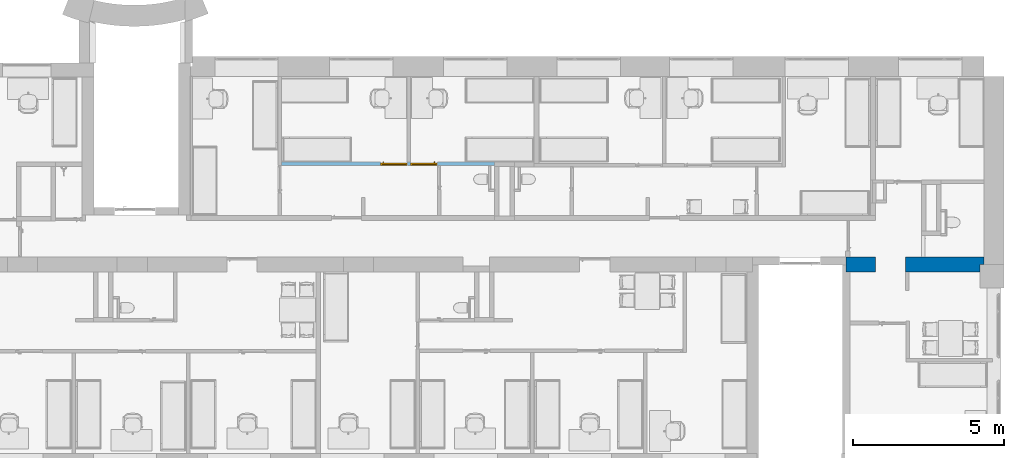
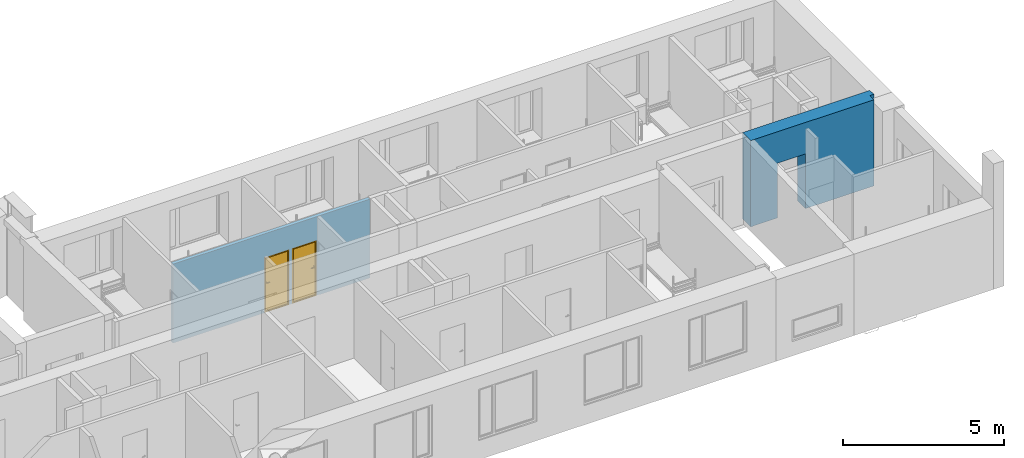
# One storey, part 17 of 46: 2 doors, 1 wall, 3 openings, plus 1 element that does not belong to this part.
"""IFC2X3 building model written with IfcOpenShell, lengths in millimetres."""

from ifc_helpers import new_model, entity, si_unit, converted_unit, derived_unit, direction, frame, frame_2d, origin, place, context, subcontext, project, spatial, rectangle, extrude, faceted_brep, source, transform, mapped, material, material_list, layer, layer_set, layer_usage, type_object, type_shapes, element, fill, save


model = new_model("IFC2X3")

# Units and contexts
model_context = context("Model", 3, precision=0.01, world=origin(), true_north=direction((6.12303176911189e-17, 1.0)))
body_context = subcontext(model_context, "Body", "Model", "MODEL_VIEW")
ifc_project = project(units=[si_unit("LENGTHUNIT", "METRE", prefix="MILLI"), si_unit("AREAUNIT", "SQUARE_METRE"), si_unit("VOLUMEUNIT", "CUBIC_METRE"), converted_unit("PLANEANGLEUNIT", "DEGREE", entity("IfcRatioMeasure", 0.0174532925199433), si_unit("PLANEANGLEUNIT", "RADIAN"), dimensions=[0, 0, 0, 0, 0, 0, 0]), si_unit("MASSUNIT", "GRAM", prefix="KILO"), derived_unit("MASSDENSITYUNIT", [(si_unit("MASSUNIT", "GRAM", prefix="KILO"), 1), (si_unit("LENGTHUNIT", "METRE"), -3)]), si_unit("TIMEUNIT", "SECOND"), si_unit("FREQUENCYUNIT", "HERTZ"), si_unit("THERMODYNAMICTEMPERATUREUNIT", "DEGREE_CELSIUS"), derived_unit("THERMALTRANSMITTANCEUNIT", [(si_unit("MASSUNIT", "GRAM", prefix="KILO"), 1), (si_unit("THERMODYNAMICTEMPERATUREUNIT", "KELVIN"), -1), (si_unit("TIMEUNIT", "SECOND"), -3)]), derived_unit("VOLUMETRICFLOWRATEUNIT", [(si_unit("LENGTHUNIT", "METRE"), 3), (si_unit("TIMEUNIT", "SECOND"), -1)]), si_unit("ELECTRICCURRENTUNIT", "AMPERE"), si_unit("ELECTRICVOLTAGEUNIT", "VOLT"), si_unit("POWERUNIT", "WATT"), si_unit("FORCEUNIT", "NEWTON", prefix="KILO"), si_unit("ILLUMINANCEUNIT", "LUX"), si_unit("LUMINOUSFLUXUNIT", "LUMEN"), si_unit("LUMINOUSINTENSITYUNIT", "CANDELA"), derived_unit("USERDEFINED", [(si_unit("MASSUNIT", "GRAM", prefix="KILO"), -1), (si_unit("LENGTHUNIT", "METRE"), -2), (si_unit("TIMEUNIT", "SECOND"), 3), (si_unit("LUMINOUSFLUXUNIT", "LUMEN"), 1)]), derived_unit("LINEARVELOCITYUNIT", [(si_unit("LENGTHUNIT", "METRE"), 1), (si_unit("TIMEUNIT", "SECOND"), -1)]), si_unit("PRESSUREUNIT", "PASCAL"), derived_unit("USERDEFINED", [(si_unit("LENGTHUNIT", "METRE"), -2), (si_unit("MASSUNIT", "GRAM", prefix="KILO"), 1), (si_unit("TIMEUNIT", "SECOND"), -2)]), derived_unit("LINEARFORCEUNIT", [(si_unit("MASSUNIT", "GRAM", prefix="KILO"), 1), (si_unit("LENGTHUNIT", "METRE"), 1), (si_unit("TIMEUNIT", "SECOND"), -2), (si_unit("LENGTHUNIT", "METRE"), -1)]), derived_unit("PLANARFORCEUNIT", [(si_unit("MASSUNIT", "GRAM", prefix="KILO"), 1), (si_unit("LENGTHUNIT", "METRE"), 1), (si_unit("TIMEUNIT", "SECOND"), -2), (si_unit("LENGTHUNIT", "METRE"), -2)])], contexts=[model_context])

# Site, building, storey
site_placement = place(None, origin())
site = spatial("IfcSite", under=ifc_project, at=site_placement, Name="Default", CompositionType="ELEMENT")
building_placement = place(site_placement, origin())
building = spatial("IfcBuilding", under=site, at=building_placement, Name="SMA ARH", CompositionType="ELEMENT")
storey_placement = place(building_placement, frame((0.0, 0.0, 9910.0)))
storey = spatial("IfcBuildingStorey", under=building, at=storey_placement, Name="4 Korrus", CompositionType="ELEMENT", Elevation=9909.9999999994)

# Wall
ifc_material_1 = material(Name="_ol.olev sein")
ifc_layer_1 = layer(ifc_material_1, 510.0)
ifc_layer_set_1 = layer_set([ifc_layer_1], Name="Basic Wall:Generic - 510mm")
wall_type_1 = type_object("IfcWallType", Name="Basic Wall:Generic - 510mm", PredefinedType="STANDARD", material=ifc_layer_set_1)
wall_1_placement = place(storey_placement, frame((38315.0, 6265.0, 0.0), z_axis=(0.0, 0.0, 1.0), x_axis=(-1.0, 0.0, 0.0)))
element("IfcWall", 1, at=wall_1_placement, inside=storey, type_object=wall_type_1, Name="Basic Wall:Generic - 510mm", ObjectType="Basic Wall:Generic - 510mm", context=body_context, shape_type="Brep", body=[
    faceted_brep([(2605.0, -255.0, 2090.0), (3605.0, -255.0, 2090.0), (3605.0, -255.0, 10.0), (4575.0, -255.0, 10.0), (4575.0, -255.0, 3282.04851327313), (0.0, -255.0, 3282.04851327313), (0.0, -255.0, 10.0), (2605.0, -255.0, 10.0), (4575.0, 255.0, 3284.31836329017), (4575.0, 255.0, 0.0), (4450.0, 255.0, 0.0), (4450.0, 255.0, 10.0), (3605.0, 255.0, 10.0), (3605.0, 255.0, 2090.0), (2605.0, 255.0, 2090.0), (2605.0, 255.0, 10.0), (140.0, 255.0, 10.0), (140.0, 255.0, 3284.31836329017), (4450.0, 255.0, 3284.31836329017), (4575.0, 25.0, 0.0), (4575.0, -225.0, 0.0), (4450.0, -225.0, 0.0), (4575.0, 32.5000000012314, 3292.08823450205), (4575.0, 25.0, 3291.82632873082), (4575.0, -225.0, 10.0), (0.0, 0.0, 3290.95330949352), (0.0, 0.0, 3145.0), (0.0, 0.0, 10.0), (140.0, 0.0, 3290.95330949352), (140.0, 0.0, 3145.0), (140.0, 0.0, 10.0), (140.0, 32.5000000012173, 3292.08823450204), (4450.0, 32.5000000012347, 3292.08823450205), (4450.0, -225.0, 10.0)], [[[0, 1, 2, 3, 4, 5, 6, 7]], [[8, 9, 10, 11, 12, 13, 14, 15, 16, 17, 18]], [[10, 9, 19, 20, 21]], [[9, 8, 22, 23, 4, 3, 24, 20, 19]], [[5, 25, 26, 27, 6]], [[25, 28, 29, 30, 27, 26]], [[31, 17, 16, 30, 29, 28]], [[13, 1, 0, 14]], [[1, 13, 12, 2]], [[28, 25, 5, 4, 23, 22, 32, 31]], [[8, 18, 17, 31, 32, 22]], [[14, 0, 7, 15]], [[7, 6, 27, 30, 16, 15]], [[33, 11, 10, 21]], [[24, 33, 21, 20]], [[11, 33, 24, 3, 2, 12]]]),
])

# Wall, openings, doors
ifc_material_2 = material(Name="EST. Ehitusplaat. Kipsplaat")
ifc_layer_2 = layer(ifc_material_2, 12.5)
ifc_layer_3 = layer(ifc_material_2, 12.5)
ifc_material_3 = material(Name="EST. Õhkvahe. Roov. Kipsplaadi alusroov. Vertikaalne")
ifc_layer_4 = layer(ifc_material_3, 66.0)
ifc_layer_5 = layer(ifc_material_2, 12.5)
ifc_layer_6 = layer(ifc_material_2, 12.5)
ifc_layer_set_2 = layer_set([ifc_layer_2, ifc_layer_3, ifc_layer_4, ifc_layer_5, ifc_layer_6], Name="Basic Wall:SS-03_Kips, 66mm metallkarkass")
ifc_layer_usage = layer_usage(ifc_layer_set_2, "AXIS2", "NEGATIVE", 58.0)
wall_type_2 = type_object("IfcWallType", Name="Basic Wall:SS-03_Kips, 66mm metallkarkass", PredefinedType="STANDARD", material=ifc_layer_set_2)
wall_2_placement = place(storey_placement, frame((15015.5000000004, 9599.0, 0.0)))
wall_2 = element("IfcWallStandardCase", 2, at=wall_2_placement, inside=storey, type_object=wall_type_2, material=ifc_layer_usage, Name="Basic Wall:SS-03_Kips, 66mm metallkarkass", ObjectType="Basic Wall:SS-03_Kips, 66mm metallkarkass", context=body_context, shape_type="SweptSolid", body=[
    extrude(rectangle(XDim=7071.78848185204, YDim=116.0, at=frame_2d((3535.89424092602, -6.75015598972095e-14), x_axis=(-1.0, 0.0))), origin(), (0.0, 0.0, 1.0), 3001.0500000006),
])
opening_1_placement = place(wall_2_placement, origin())
element("IfcOpeningElement", 3, at=opening_1_placement, cuts=wall_2, Name="Basic Wall:SS-03_Kips, 66mm metallkarkass", ObjectType="Opening", context=body_context, shape_type="SweptSolid", body=[
    extrude(rectangle(XDim=2099.99999999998, YDim=116.0, at=frame_2d((0.0, -1.02318153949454e-12), x_axis=(0.0, 1.0))), frame((5230.49999999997, -845.500000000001, 1050.0), z_axis=(0.0, 1.0, 0.0), x_axis=(-1.0, 0.0, 0.0)), (0.0, 0.0, 1.0), 800.0),
])
opening_2_placement = place(wall_2_placement, frame((4273.49999999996, -58.0, 0.0)))
opening_2 = element("IfcOpeningElement", 4, at=opening_2_placement, cuts=wall_2, Name="SMA_D01, 1-poolne:SU-P-05 - 900x2100 TUBA:1", ObjectType="Opening", context=body_context, shape_type="SweptSolid", body=[
    extrude(rectangle(XDim=2099.99999999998, YDim=900.0, at=frame_2d((1049.99999999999, 450.000000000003), x_axis=(1.0, 0.0))), frame((0.0, 0.0, 0.0), z_axis=(0.0, 1.0, 0.0), x_axis=(0.0, 0.0, 1.0)), (0.0, 0.0, 1.0), 116.0),
])
opening_3_placement = place(wall_2_placement, frame((3282.49999999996, -58.0, 0.0)))
opening_3 = element("IfcOpeningElement", 5, at=opening_3_placement, cuts=wall_2, Name="SMA_D01, 1-poolne:SU-P-05 - 900x2100 TUBA:1", ObjectType="Opening", context=body_context, shape_type="SweptSolid", body=[
    extrude(rectangle(XDim=2099.99999999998, YDim=900.0, at=frame_2d((1049.99999999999, 450.0), x_axis=(1.0, 0.0))), frame((0.0, 0.0, 0.0), z_axis=(0.0, 1.0, 0.0), x_axis=(0.0, 0.0, 1.0)), (0.0, 0.0, 1.0), 116.0),
])
ifc_material_4 = material(Name="EST. Metall. Alumiinium. Värvitud. RAL7023 (Concrete grey)")
ifc_material_5 = material(Name="<Unnamed>")
ifc_material_6 = material(Name="EST. Klaas. 3x. Default")
ifc_material_list_1 = material_list([ifc_material_5, ifc_material_5, ifc_material_6, ifc_material_4, ifc_material_4, ifc_material_5, ifc_material_4])
door_style_1 = type_object("IfcDoorStyle", Name="SMA_D01, 1-poolne:SU-P-05 - 900x2100 TUBA", ConstructionType="NOTDEFINED", OperationType="NOTDEFINED", ParameterTakesPrecedence=False, Sizeable=False, material=ifc_material_list_1)
shared_shape_1 = source(origin(), body_context, "Body", "Brep", [
    faceted_brep([(790.0, 6.0, 1112.5), (695.0, 6.0, 1112.5), (695.0, 1.0, 1112.5), (815.0, 1.0, 1112.5), (815.0, 44.0, 1112.5), (790.0, 44.0, 1112.5), (790.0, 6.0, 1087.5), (790.0, 44.0, 1087.5), (815.0, 44.0, 1087.5), (815.0, 1.0, 1087.5), (695.0, 1.0, 1087.5), (695.0, 6.0, 1087.5)], [[[0, 1, 2, 3, 4, 5]], [[6, 7, 8, 9, 10, 11]], [[5, 7, 6, 0]], [[4, 8, 7, 5]], [[3, 9, 8, 4]], [[2, 10, 9, 3]], [[1, 11, 10, 2]], [[0, 6, 11, 1]]]),
    faceted_brep([(777.500000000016, 44.0, 1137.5), (827.500000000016, 44.0, 1137.5), (827.500000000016, 46.0, 1137.5), (777.500000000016, 46.0, 1137.5), (777.500000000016, 44.0, 1017.5), (777.500000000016, 46.0, 1017.5), (827.500000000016, 46.0, 1017.5), (827.500000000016, 44.0, 1017.5)], [[[0, 1, 2, 3]], [[4, 5, 6, 7]], [[3, 5, 4, 0]], [[2, 6, 5, 3]], [[1, 7, 6, 2]], [[0, 4, 7, 1]]]),
    faceted_brep([(790.0, 136.0, 1112.5), (790.0, 98.0, 1112.5), (815.0, 98.0, 1112.5), (815.0, 141.0, 1112.5), (695.0, 141.0, 1112.5), (695.0, 136.0, 1112.5), (790.0, 136.0, 1087.5), (695.0, 136.0, 1087.5), (695.0, 141.0, 1087.5), (815.0, 141.0, 1087.5), (815.0, 98.0, 1087.5), (790.0, 98.0, 1087.5)], [[[0, 1, 2, 3, 4, 5]], [[6, 7, 8, 9, 10, 11]], [[1, 0, 6, 11]], [[2, 1, 11, 10]], [[3, 2, 10, 9]], [[4, 3, 9, 8]], [[5, 4, 8, 7]], [[0, 5, 7, 6]]]),
    faceted_brep([(777.500000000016, 98.0, 1137.5), (777.500000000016, 96.0, 1137.5), (827.500000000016, 96.0, 1137.5), (827.500000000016, 98.0, 1137.5), (777.500000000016, 98.0, 1017.5), (827.500000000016, 98.0, 1017.5), (827.500000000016, 96.0, 1017.5), (777.500000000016, 96.0, 1017.5)], [[[0, 1, 2, 3]], [[4, 5, 6, 7]], [[1, 0, 4, 7]], [[2, 1, 7, 6]], [[3, 2, 6, 5]], [[0, 3, 5, 4]]]),
    faceted_brep([(50.0, 6.0, 30.0), (50.0, 46.0, 30.0), (50.0, 46.0, 20.0), (50.0, 46.0, 0.0), (50.0, 6.0, 0.0), (850.0, 6.0, 30.0), (850.0, 6.0, 0.0), (850.0, 46.0, 0.0), (850.0, 46.0, 20.0), (850.0, 46.0, 30.0), (35.0, 46.0, 0.0), (35.0, 96.0, 0.0), (865.0, 96.0, 0.0), (865.0, 46.0, 0.0), (35.0, 96.0, 20.0), (35.0, 46.0, 20.0), (865.0, 96.0, 20.0), (865.0, 46.0, 20.0)], [[[0, 1, 2, 3, 4]], [[5, 6, 7, 8, 9]], [[4, 6, 5, 0]], [[3, 10, 11, 12, 13, 7, 6, 4]], [[9, 8, 2, 1]], [[0, 5, 9, 1]], [[14, 11, 10, 15]], [[16, 17, 13, 12]], [[15, 2, 8, 17, 16, 14]], [[10, 3, 2, 15]], [[14, 16, 12, 11]], [[17, 8, 7, 13]]]),
    faceted_brep([(10.0, 6.0, 0.0), (10.0, 96.0, 0.0), (35.0, 96.0, 0.0), (35.0, 46.0, 0.0), (50.0, 46.0, 0.0), (50.0, 6.0, 0.0), (50.0, 6.0, 2050.0), (850.0, 6.0, 2050.0), (850.0, 6.0, 0.0), (890.0, 6.0, 0.0), (890.0, 6.0, 2090.0), (10.0, 6.0, 2090.0), (50.0, 46.0, 2050.0), (35.0, 46.0, 2065.0), (865.0, 46.0, 2065.0), (865.0, 46.0, 0.0), (850.0, 46.0, 0.0), (850.0, 46.0, 2050.0), (35.0, 96.0, 2065.0), (10.0, 96.0, 2090.0), (890.0, 96.0, 2090.0), (890.0, 96.0, 0.0), (865.0, 96.0, 0.0), (865.0, 96.0, 2065.0)], [[[0, 1, 2, 3, 4, 5]], [[5, 6, 7, 8, 9, 10, 11, 0]], [[4, 12, 6, 5]], [[3, 13, 14, 15, 16, 17, 12, 4]], [[2, 18, 13, 3]], [[1, 19, 20, 21, 22, 23, 18, 2]], [[0, 11, 19, 1]], [[9, 21, 20, 10]], [[8, 16, 15, 22, 21, 9]], [[7, 17, 16, 8]], [[14, 23, 22, 15]], [[6, 12, 17, 7]], [[13, 18, 23, 14]], [[10, 20, 19, 11]]]),
    faceted_brep([(865.0, 46.0, 2065.0), (35.0, 46.0, 2065.0), (35.0, 46.0, 20.0), (865.0, 46.0, 20.0), (865.0, 96.0, 2065.0), (865.0, 96.0, 20.0), (35.0, 96.0, 20.0), (35.0, 96.0, 2065.0)], [[[0, 1, 2, 3]], [[4, 5, 6, 7]], [[3, 5, 4, 0]], [[2, 6, 5, 3]], [[1, 7, 6, 2]], [[0, 4, 7, 1]]]),
])
type_shapes(door_style_1, [shared_shape_1])
door_1_placement = place(opening_2_placement, origin())
door_1 = element("IfcDoor", 6, at=door_1_placement, inside=storey, type_object=door_style_1, material=ifc_material_4, Name="SMA_D01, 1-poolne:SU-P-05 - 900x2100 TUBA", ObjectType="SMA_D01, 1-poolne:SU-P-05 - 900x2100 TUBA", OverallHeight=2099.99999999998, OverallWidth=900.000000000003, context=body_context, shape_type="MappedRepresentation", body=[
    mapped(shared_shape_1, transform((0.0, 0.0, 0.0), scale=1.0)),
])
fill(opening_2, door_1)
ifc_material_list_2 = material_list([ifc_material_4, ifc_material_4, ifc_material_5, ifc_material_4, ifc_material_5, ifc_material_6, ifc_material_5])
door_style_2 = type_object("IfcDoorStyle", Name="SMA_D01, 1-poolne:SU-P-05 - 900x2100 TUBA", ConstructionType="NOTDEFINED", OperationType="NOTDEFINED", ParameterTakesPrecedence=False, Sizeable=False, material=ifc_material_list_2)
shared_shape_2 = source(origin(), body_context, "Body", "Brep", [
    faceted_brep([(110.0, 6.0, 1112.5), (110.0, 44.0, 1112.5), (85.0, 44.0, 1112.5), (85.0, 1.0, 1112.5), (205.0, 1.0, 1112.5), (205.0, 6.0, 1112.5), (110.0, 6.0, 1087.5), (205.0, 6.0, 1087.5), (205.0, 1.0, 1087.5), (85.0, 1.0, 1087.5), (85.0, 44.0, 1087.5), (110.0, 44.0, 1087.5)], [[[0, 1, 2, 3, 4, 5]], [[6, 7, 8, 9, 10, 11]], [[1, 0, 6, 11]], [[2, 1, 11, 10]], [[3, 2, 10, 9]], [[4, 3, 9, 8]], [[5, 4, 8, 7]], [[0, 5, 7, 6]]]),
    faceted_brep([(122.5, 44.0, 1137.5), (122.5, 46.0, 1137.5), (72.5000000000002, 46.0, 1137.5), (72.5000000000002, 44.0, 1137.5), (122.5, 44.0, 1017.5), (72.5000000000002, 44.0, 1017.5), (72.5000000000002, 46.0, 1017.5), (122.5, 46.0, 1017.5)], [[[0, 1, 2, 3]], [[4, 5, 6, 7]], [[1, 0, 4, 7]], [[2, 1, 7, 6]], [[3, 2, 6, 5]], [[0, 3, 5, 4]]]),
    faceted_brep([(110.0, 136.0, 1112.5), (205.0, 136.0, 1112.5), (205.0, 141.0, 1112.5), (85.0, 141.0, 1112.5), (85.0, 98.0, 1112.5), (110.0, 98.0, 1112.5), (110.0, 136.0, 1087.5), (110.0, 98.0, 1087.5), (85.0, 98.0, 1087.5), (85.0, 141.0, 1087.5), (205.0, 141.0, 1087.5), (205.0, 136.0, 1087.5)], [[[0, 1, 2, 3, 4, 5]], [[6, 7, 8, 9, 10, 11]], [[5, 7, 6, 0]], [[4, 8, 7, 5]], [[3, 9, 8, 4]], [[2, 10, 9, 3]], [[1, 11, 10, 2]], [[0, 6, 11, 1]]]),
    faceted_brep([(122.5, 98.0, 1137.5), (72.5000000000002, 98.0, 1137.5), (72.5000000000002, 96.0, 1137.5), (122.5, 96.0, 1137.5), (122.5, 98.0, 1017.5), (122.5, 96.0, 1017.5), (72.5000000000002, 96.0, 1017.5), (72.5000000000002, 98.0, 1017.5)], [[[0, 1, 2, 3]], [[4, 5, 6, 7]], [[3, 5, 4, 0]], [[2, 6, 5, 3]], [[1, 7, 6, 2]], [[0, 4, 7, 1]]]),
    faceted_brep([(850.0, 6.0, 30.0), (850.0, 6.0, 0.0), (850.0, 46.0, 0.0), (850.0, 46.0, 20.0), (850.0, 46.0, 30.0), (50.0, 6.0, 30.0), (50.0, 46.0, 30.0), (50.0, 46.0, 20.0), (50.0, 46.0, 0.0), (50.0, 6.0, 0.0), (35.0, 46.0, 0.0), (35.0, 96.0, 0.0), (865.0, 96.0, 0.0), (865.0, 46.0, 0.0), (865.0, 96.0, 20.0), (865.0, 46.0, 20.0), (35.0, 96.0, 20.0), (35.0, 46.0, 20.0)], [[[0, 1, 2, 3, 4]], [[5, 6, 7, 8, 9]], [[1, 0, 5, 9]], [[2, 1, 9, 8, 10, 11, 12, 13]], [[6, 4, 3, 7]], [[0, 4, 6, 5]], [[14, 15, 13, 12]], [[16, 11, 10, 17]], [[15, 14, 16, 17, 7, 3]], [[13, 15, 3, 2]], [[14, 12, 11, 16]], [[17, 10, 8, 7]]]),
    faceted_brep([(890.0, 6.0, 0.0), (850.0, 6.0, 0.0), (850.0, 46.0, 0.0), (865.0, 46.0, 0.0), (865.0, 96.0, 0.0), (890.0, 96.0, 0.0), (890.0, 6.0, 2090.0), (10.0, 6.0, 2090.0), (10.0, 6.0, 0.0), (50.0, 6.0, 0.0), (50.0, 6.0, 2050.0), (850.0, 6.0, 2050.0), (850.0, 46.0, 2050.0), (50.0, 46.0, 2050.0), (50.0, 46.0, 0.0), (35.0, 46.0, 0.0), (35.0, 46.0, 2065.0), (865.0, 46.0, 2065.0), (865.0, 96.0, 2065.0), (35.0, 96.0, 2065.0), (35.0, 96.0, 0.0), (10.0, 96.0, 0.0), (10.0, 96.0, 2090.0), (890.0, 96.0, 2090.0)], [[[0, 1, 2, 3, 4, 5]], [[1, 0, 6, 7, 8, 9, 10, 11]], [[2, 1, 11, 12]], [[3, 2, 12, 13, 14, 15, 16, 17]], [[4, 3, 17, 18]], [[5, 4, 18, 19, 20, 21, 22, 23]], [[0, 5, 23, 6]], [[8, 7, 22, 21]], [[9, 8, 21, 20, 15, 14]], [[10, 9, 14, 13]], [[16, 15, 20, 19]], [[11, 10, 13, 12]], [[17, 16, 19, 18]], [[7, 6, 23, 22]]]),
    faceted_brep([(35.0, 46.0, 2065.0), (35.0, 46.0, 20.0), (865.0, 46.0, 20.0), (865.0, 46.0, 2065.0), (35.0, 96.0, 2065.0), (865.0, 96.0, 2065.0), (865.0, 96.0, 20.0), (35.0, 96.0, 20.0)], [[[0, 1, 2, 3]], [[4, 5, 6, 7]], [[1, 0, 4, 7]], [[2, 1, 7, 6]], [[3, 2, 6, 5]], [[0, 3, 5, 4]]]),
])
type_shapes(door_style_2, [shared_shape_2])
door_2_placement = place(opening_3_placement, origin())
door_2 = element("IfcDoor", 7, at=door_2_placement, inside=storey, type_object=door_style_2, material=ifc_material_4, Name="SMA_D01, 1-poolne:SU-P-05 - 900x2100 TUBA", ObjectType="SMA_D01, 1-poolne:SU-P-05 - 900x2100 TUBA", OverallHeight=2099.99999999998, OverallWidth=899.999999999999, context=body_context, shape_type="MappedRepresentation", body=[
    mapped(shared_shape_2, transform((0.0, 0.0, 0.0), scale=1.0)),
])
fill(opening_3, door_2)

save(model, "model.ifc")
